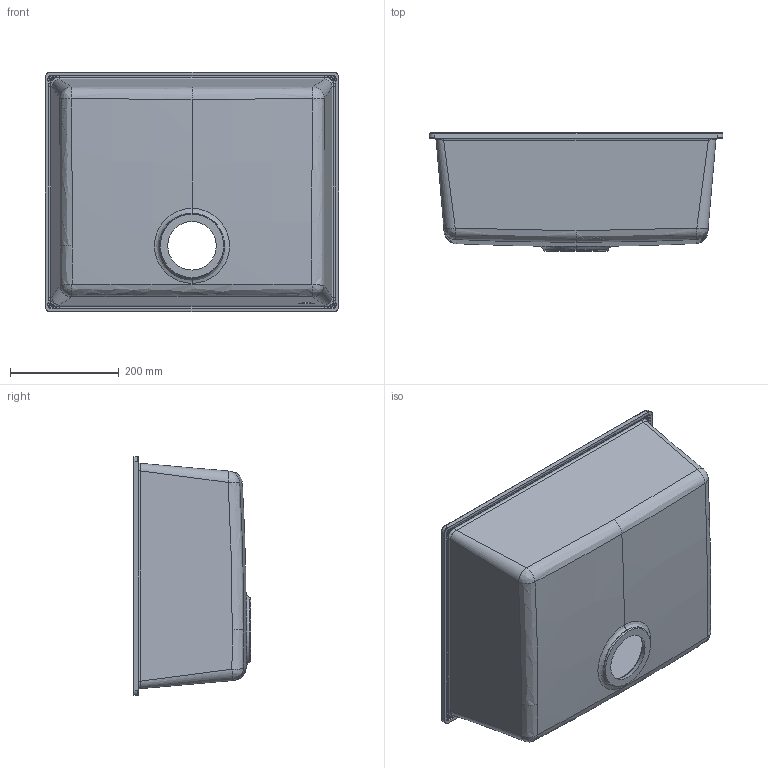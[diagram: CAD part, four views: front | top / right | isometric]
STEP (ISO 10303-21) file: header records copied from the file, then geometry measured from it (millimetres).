
FILE_DESCRIPTION (( 'STEP AP203' ), '1' );
FILE_NAME ('3d_quadra_105_bso.STEP', '2019-01-22T16:17:03', ( '' ), ( '' ), 'SwSTEP 2.0', 'SolidWorks 2013', '' );
FILE_SCHEMA (( 'CONFIG_CONTROL_DESIGN' ));
Length unit declared in the file: millimetre
Products named in the file (1): 3d_quadra_105_bso
Bounding box: 540 x 216.53 x 440 mm (x, y, z)
Volume: 4282430.2 mm3; surface area: 1071958.9 mm2
Topology: 1 solids, 1 shells, 189 faces, 458 edges, 264 vertices
Faces by surface type: bspline 110, cylinder 50, plane 23, cone 6
Entity records: 10707 total; most frequent: CARTESIAN_POINT 6928, ORIENTED_EDGE 900, DIRECTION 616, EDGE_CURVE 450, VERTEX_POINT 264, AXIS2_PLACEMENT_3D 254, EDGE_LOOP 194, ADVANCED_FACE 189
